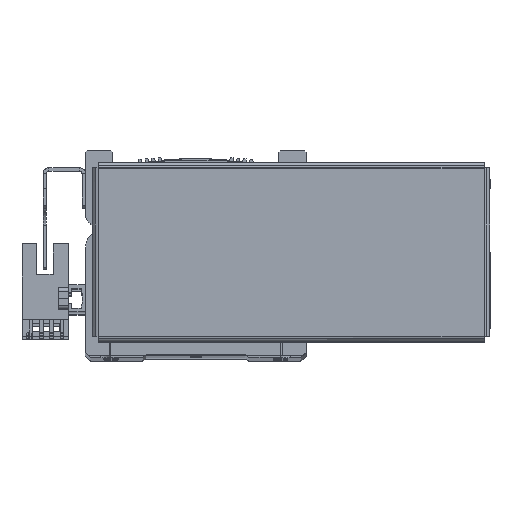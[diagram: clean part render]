
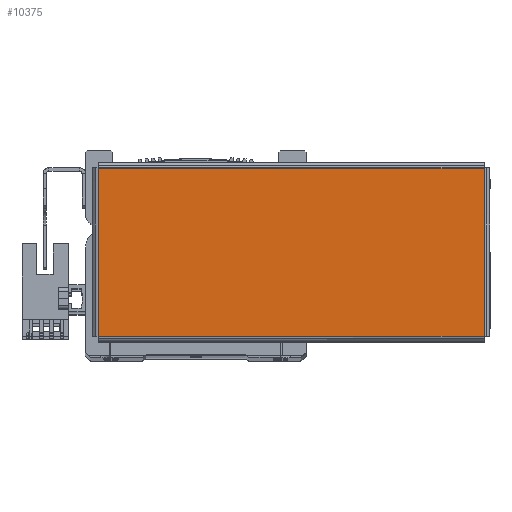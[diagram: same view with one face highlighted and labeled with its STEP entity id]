
A CAD part, top view. The second image highlights one B-rep face of the part: STEP entity #10375.
In plain terms, the highlighted planar face has unit normal (0, 0, 1) as drawn and (0, 0, -1) by its records, which use the part's own axes.
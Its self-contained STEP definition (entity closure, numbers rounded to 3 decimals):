
#6232 = CARTESIAN_POINT ( 'NONE',  ( 0., 0., -1. ) ) ;
#6242 = PLANE ( 'NONE',  #30772 ) ;
#6244 = DIRECTION ( 'NONE',  ( 0., 0., 1. ) ) ;
#6245 = DIRECTION ( 'NONE',  ( 1., 0., 0. ) ) ;
#10375 = ADVANCED_FACE ( 'NONE', ( #26322 ), #6242, .F. ) ;
#18319 = DIRECTION ( 'NONE',  ( 0., -1., 0. ) ) ;
#18349 = CARTESIAN_POINT ( 'NONE',  ( 56.893, -24.763, -1. ) ) ;
#18350 = CARTESIAN_POINT ( 'NONE',  ( 56.863, 24.793, -1. ) ) ;
#18352 = DIRECTION ( 'NONE',  ( -1., 0., 0. ) ) ;
#18357 = CARTESIAN_POINT ( 'NONE',  ( -56.893, 24.763, -1. ) ) ;
#18371 = DIRECTION ( 'NONE',  ( 1., 0., 0. ) ) ;
#18441 = CARTESIAN_POINT ( 'NONE',  ( -56.863, -24.793, -1. ) ) ;
#18457 = DIRECTION ( 'NONE',  ( 0., 1., 0. ) ) ;
#20334 = EDGE_LOOP ( 'NONE', ( #28098, #28099, #28111, #28064 ) ) ;
#22585 = EDGE_CURVE ( 'NONE', #23548, #23573, #29499, .T. ) ;
#22587 = EDGE_CURVE ( 'NONE', #23605, #23548, #29474, .T. ) ;
#22596 = EDGE_CURVE ( 'NONE', #23606, #23605, #29459, .T. ) ;
#22624 = EDGE_CURVE ( 'NONE', #23573, #23606, #29472, .T. ) ;
#23548 = VERTEX_POINT ( 'NONE', #33330 ) ;
#23573 = VERTEX_POINT ( 'NONE', #33437 ) ;
#23605 = VERTEX_POINT ( 'NONE', #33564 ) ;
#23606 = VERTEX_POINT ( 'NONE', #33568 ) ;
#26322 = FACE_OUTER_BOUND ( 'NONE', #20334, .T. ) ;
#28064 = ORIENTED_EDGE ( 'NONE', *, *, #22596, .T. ) ;
#28098 = ORIENTED_EDGE ( 'NONE', *, *, #22587, .T. ) ;
#28099 = ORIENTED_EDGE ( 'NONE', *, *, #22585, .T. ) ;
#28111 = ORIENTED_EDGE ( 'NONE', *, *, #22624, .T. ) ;
#29455 = VECTOR ( 'NONE', #18352, 1000. ) ;
#29459 = LINE ( 'NONE', #18357, #29490 ) ;
#29470 = VECTOR ( 'NONE', #18319, 1000. ) ;
#29472 = LINE ( 'NONE', #18441, #29476 ) ;
#29474 = LINE ( 'NONE', #18350, #29470 ) ;
#29476 = VECTOR ( 'NONE', #18457, 1000. ) ;
#29490 = VECTOR ( 'NONE', #18371, 1000. ) ;
#29499 = LINE ( 'NONE', #18349, #29455 ) ;
#30772 = AXIS2_PLACEMENT_3D ( 'NONE', #6232, #6244, #6245 ) ;
#33330 = CARTESIAN_POINT ( 'NONE',  ( 56.863, -24.763, -1. ) ) ;
#33437 = CARTESIAN_POINT ( 'NONE',  ( -56.863, -24.763, -1. ) ) ;
#33564 = CARTESIAN_POINT ( 'NONE',  ( 56.863, 24.763, -1. ) ) ;
#33568 = CARTESIAN_POINT ( 'NONE',  ( -56.863, 24.763, -1. ) ) ;
